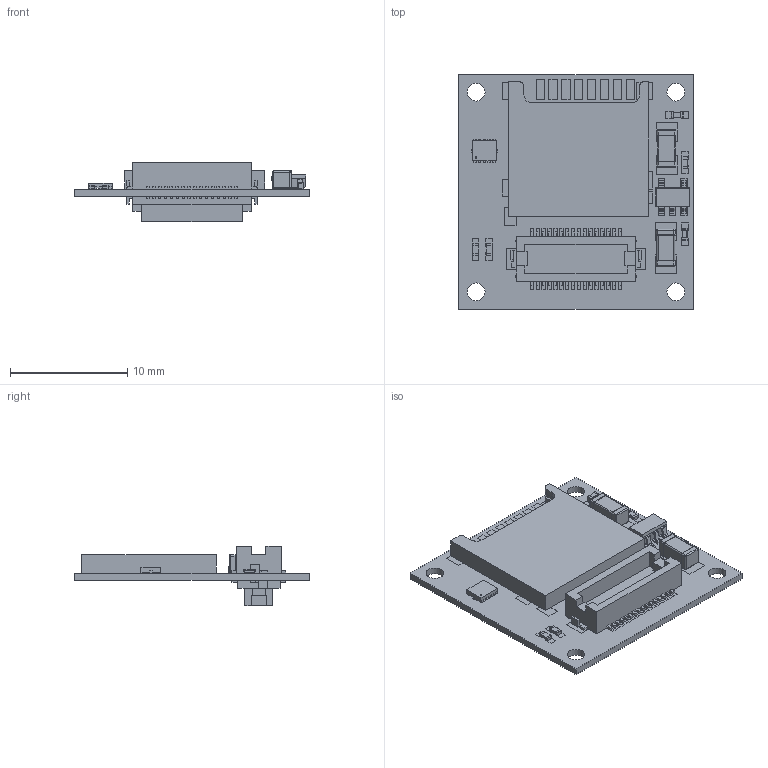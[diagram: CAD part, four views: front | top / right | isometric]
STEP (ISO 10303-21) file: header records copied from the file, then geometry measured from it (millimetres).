
FILE_DESCRIPTION(('FreeCAD Model'),'2;1');
FILE_NAME('/home/devy/MEGA/TinyCircuits/Assets/BoardsANDBoardModels/Shields/TinyCircuits-TinyShield-microSD-ASD2201/cad/TinyShield_SDCARD_STEP_ASD2201_REV2.step','2020-07-08T15:34:24',('Author'),(''), 'Open CASCADE STEP processor 7.4','FreeCAD','Unknown');
FILE_SCHEMA(('AUTOMOTIVE_DESIGN { 1 0 10303 214 1 1 1 1 }'));
Products named in the file (1): TinyShield_SDCARD_STEP_ASD2201_REV2
Bounding box: 20 x 20 x 5.1 mm (x, y, z)
Volume: 993.6 mm3; surface area: 3957.5 mm2
Topology: 286 solids, 286 shells, 3156 faces, 7874 edges, 5808 vertices
Faces by surface type: plane 2862, cylinder 210, sphere 64, revolution 20
Full cylindrical faces by diameter (mm): 0.5 x8, 0.652 x8, 1.502 x8
Entity records: 211887 total; most frequent: CARTESIAN_POINT 33475, DIRECTION 28498, LINE 20648, VECTOR 20648, ORIENTED_EDGE 14404, PCURVE 14404, DEFINITIONAL_REPRESENTATION 14404, EDGE_CURVE 7202
